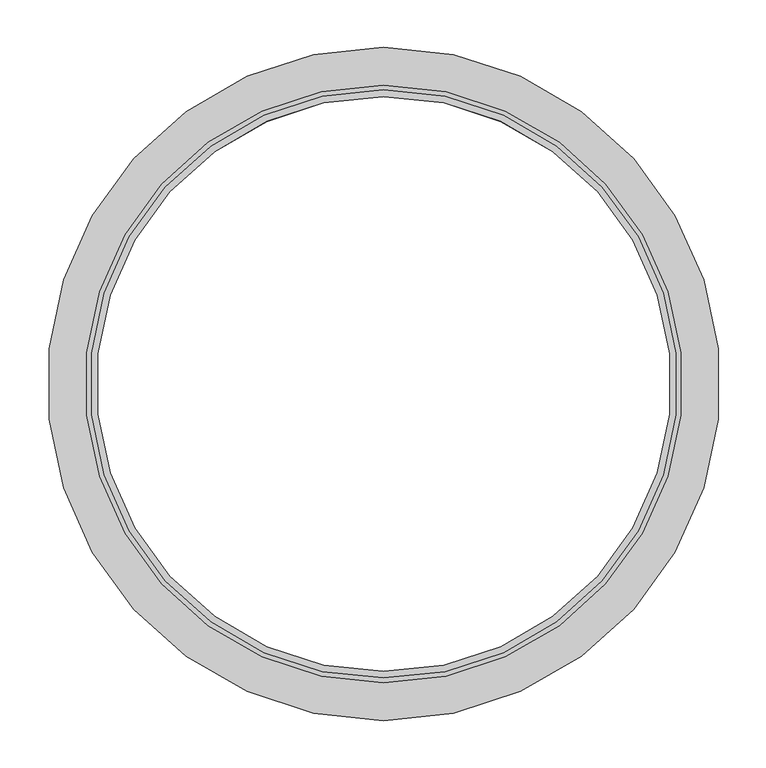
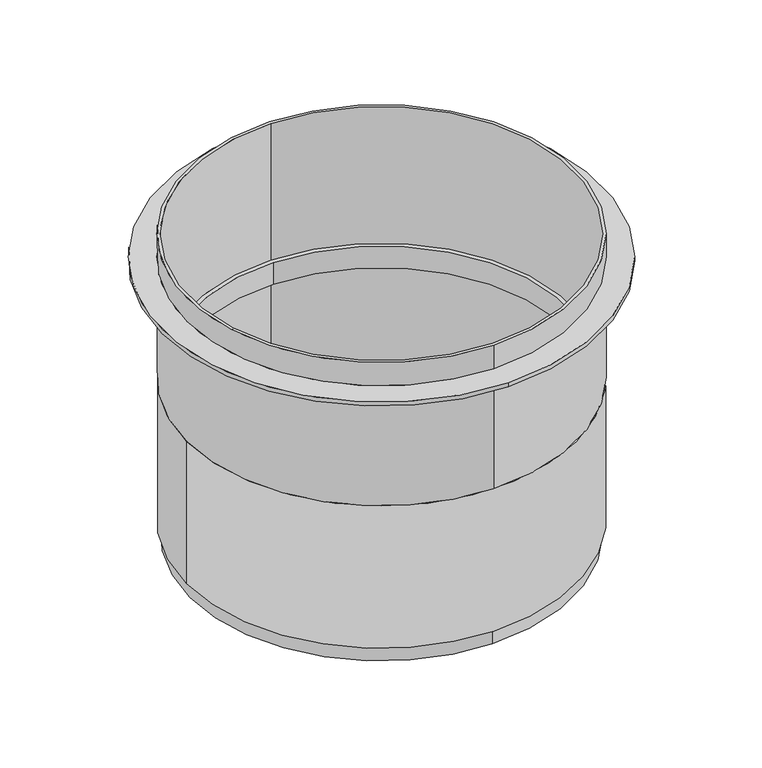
"""IFC4 building model written with IfcOpenShell, lengths in millimetres: valve geometry, Pipelife - Studnia PRO - Teleskop PP 630 : Teleskop PP 630 z kołnierzem dł. 515 mm."""

from ifc_helpers import new_model, si_unit, frame, origin, place, context, project, spatial, polyline, circle_curve, source, transform, mapped, element, save
from ifc_brep_helpers import plane_surface, cylinder_surface, revolved_surface, advanced_brep


def valve_ff07b4d1(model_context):
    return source(origin(), model_context, "Body", "AdvancedBrep", [
        advanced_brep(
        [(0.0, 310.5, 0.0), (0.0, -310.5, 0.0), (0.0, 303.5, 0.0), (0.0, -303.5, 0.0), (0.0, -310.5, 25.0), (0.0, 310.5, 25.0), (0.0, -303.5, 31.0), (0.0, 303.5, 31.0), (315.5, 0.0, 25.0), (-315.5, 0.0, 25.0), (315.5, 0.0, 269.0), (-315.5, 0.0, 269.0), (0.0, -310.5, 269.0), (0.0, 310.5, 269.0), (0.0, 310.5, 31.0), (0.0, -310.5, 31.0)],
        [
            (0, 1, circle_curve(frame((0.0, 0.0, 0.0), z_axis=(0.0, 0.0, -1.0), x_axis=(0.0, -1.0, 0.0)), 310.5)),
            (1, 0, circle_curve(frame((0.0, 0.0, 0.0), z_axis=(0.0, 0.0, -1.0), x_axis=(0.0, -1.0, 0.0)), 310.5)),
            (2, 3, circle_curve(frame((0.0, 0.0, 0.0), z_axis=(0.0, 0.0, 1.0), x_axis=(0.0, -1.0, 0.0)), 303.5)),
            (3, 2, circle_curve(frame((0.0, 0.0, 0.0), z_axis=(0.0, 0.0, 1.0), x_axis=(0.0, -1.0, 0.0)), 303.5)),
            (1, 4),
            (4, 5, circle_curve(frame((0.0, 0.0, 25.0), z_axis=(0.0, 0.0, -1.0), x_axis=(0.0, -1.0, 0.0)), 310.5)),
            (5, 0),
            (5, 4, circle_curve(frame((0.0, 0.0, 25.0), z_axis=(0.0, 0.0, -1.0), x_axis=(0.0, -1.0, 0.0)), 310.5)),
            (6, 3),
            (2, 7),
            (7, 6, circle_curve(frame((0.0, 0.0, 31.0), z_axis=(0.0, 0.0, 1.0), x_axis=(0.0, -1.0, 0.0)), 303.5)),
            (6, 7, circle_curve(frame((0.0, 0.0, 31.0), z_axis=(0.0, 0.0, 1.0), x_axis=(0.0, -1.0, 0.0)), 303.5)),
            (8, 9, circle_curve(frame((0.0, 0.0, 25.0), z_axis=(0.0, 0.0, -1.0), x_axis=(-1.0, 0.0, 0.0)), 315.5)),
            (9, 8, circle_curve(frame((0.0, 0.0, 25.0), z_axis=(0.0, 0.0, -1.0), x_axis=(-1.0, 0.0, 0.0)), 315.5)),
            (10, 11, circle_curve(frame((0.0, 0.0, 269.0), z_axis=(0.0, 0.0, 1.0), x_axis=(-1.0, 0.0, 0.0)), 315.5)),
            (11, 10, circle_curve(frame((0.0, 0.0, 269.0), z_axis=(0.0, 0.0, 1.0), x_axis=(-1.0, 0.0, 0.0)), 315.5)),
            (12, 13, circle_curve(frame((0.0, 0.0, 269.0), z_axis=(0.0, 0.0, -1.0), x_axis=(0.0, -1.0, 0.0)), 310.5)),
            (13, 12, circle_curve(frame((0.0, 0.0, 269.0), z_axis=(0.0, 0.0, -1.0), x_axis=(0.0, -1.0, 0.0)), 310.5)),
            (8, 10),
            (11, 9),
            (14, 15, circle_curve(frame((0.0, 0.0, 31.0), z_axis=(0.0, 0.0, 1.0), x_axis=(0.0, -1.0, 0.0)), 310.5)),
            (15, 14, circle_curve(frame((0.0, 0.0, 31.0), z_axis=(0.0, 0.0, 1.0), x_axis=(0.0, -1.0, 0.0)), 310.5)),
            (14, 13),
            (12, 15),
        ],
        [
            plane_surface(frame((0.0, 0.0, 0.0), z_axis=(0.0, 0.0, -1.0), x_axis=(0.0, -1.0, 0.0))),
            cylinder_surface(frame((0.0, 0.0, 25.0), z_axis=(0.0, 0.0, 1.0), x_axis=(0.0, -1.0, 0.0)), 310.5),
            revolved_surface(polyline([(0.0, -303.5, 31.0), (0.0, -303.5, 0.0)]), (0.0, 0.0, 31.0), (0.0, 0.0, 1.0)),
            plane_surface(frame((0.0, 0.0, 25.0), z_axis=(0.0, 0.0, -1.0), x_axis=(0.0, -1.0, 0.0))),
            plane_surface(frame((0.0, 0.0, 269.0), z_axis=(0.0, 0.0, 1.0), x_axis=(0.0, -1.0, 0.0))),
            cylinder_surface(frame((0.0, 0.0, 25.0), z_axis=(0.0, 0.0, -1.0), x_axis=(-1.0, 0.0, 0.0)), 315.5),
            plane_surface(frame((0.0, 0.0, 31.0), z_axis=(0.0, 0.0, 1.0), x_axis=(0.0, -1.0, 0.0))),
            revolved_surface(polyline([(0.0, -310.5, 269.0), (0.0, -310.5, 31.0)]), (0.0, 0.0, 269.0), (0.0, 0.0, 1.0)),
        ],
        [
            (0, [[1, 2], [3, 4]]),
            (1, [[-2, 5, 6, 7]]),
            (1, [[-1, -7, 8, -5]]),
            (2, [[9, -3, 10, 11]]),
            (2, [[-9, 12, -10, -4]]),
            (3, [[13, 14], [-6, -8]]),
            (4, [[15, 16], [17, 18]]),
            (5, [[-13, 19, -16, 20]]),
            (5, [[-14, -20, -15, -19]]),
            (6, [[21, 22], [-11, -12]]),
            (7, [[-21, 23, -17, 24]]),
            (7, [[-22, -24, -18, -23]]),
        ],
    ),
        advanced_brep(
        [(0.0, 315.5, 515.0), (0.0, -315.5, 515.0), (0.0, -310.5, 515.0), (0.0, 310.5, 515.0), (0.0, 315.5, 269.0), (0.0, -315.5, 269.0), (0.0, 310.5, 269.0), (0.0, -310.5, 269.0), (0.0, 315.5, 475.0), (0.0, -315.5, 475.0), (0.0, -315.5, 468.0), (0.0, 315.5, 468.0), (0.0, 310.5, 281.0), (0.0, -310.5, 281.0), (0.0, -303.5, 281.0), (0.0, 303.5, 281.0), (0.0, 310.5, 468.0), (0.0, 310.5, 475.0), (0.0, -310.5, 475.0), (0.0, -310.5, 468.0), (0.0, -303.5, 244.0), (0.0, 303.5, 244.0), (0.0, 310.5, 244.0), (0.0, -310.5, 244.0), (0.0, 355.5, 475.0), (0.0, -355.5, 475.0), (0.0, 355.5, 468.0), (0.0, -355.5, 468.0)],
        [
            (0, 1, circle_curve(frame((0.0, 0.0, 515.0), z_axis=(0.0, 0.0, 1.0), x_axis=(0.0, -1.0, 0.0)), 315.5)),
            (1, 0, circle_curve(frame((0.0, 0.0, 515.0), z_axis=(0.0, 0.0, 1.0), x_axis=(0.0, -1.0, 0.0)), 315.5)),
            (2, 3, circle_curve(frame((0.0, 0.0, 515.0), z_axis=(0.0, 0.0, -1.0), x_axis=(0.0, -1.0, 0.0)), 310.5)),
            (3, 2, circle_curve(frame((0.0, 0.0, 515.0), z_axis=(0.0, 0.0, -1.0), x_axis=(0.0, -1.0, 0.0)), 310.5)),
            (4, 5, circle_curve(frame((0.0, 0.0, 269.0), z_axis=(0.0, 0.0, -1.0), x_axis=(0.0, -1.0, 0.0)), 315.5)),
            (5, 4, circle_curve(frame((0.0, 0.0, 269.0), z_axis=(0.0, 0.0, -1.0), x_axis=(0.0, -1.0, 0.0)), 315.5)),
            (6, 7, circle_curve(frame((0.0, 0.0, 269.0), z_axis=(0.0, 0.0, 1.0), x_axis=(0.0, -1.0, 0.0)), 310.5)),
            (7, 6, circle_curve(frame((0.0, 0.0, 269.0), z_axis=(0.0, 0.0, 1.0), x_axis=(0.0, -1.0, 0.0)), 310.5)),
            (0, 8),
            (8, 9, circle_curve(frame((0.0, 0.0, 475.0), z_axis=(0.0, 0.0, 1.0), x_axis=(0.0, -1.0, 0.0)), 315.5)),
            (9, 1),
            (5, 10),
            (10, 11, circle_curve(frame((0.0, 0.0, 468.0), z_axis=(0.0, 0.0, -1.0), x_axis=(0.0, -1.0, 0.0)), 315.5)),
            (11, 4),
            (9, 8, circle_curve(frame((0.0, 0.0, 475.0), z_axis=(0.0, 0.0, 1.0), x_axis=(0.0, -1.0, 0.0)), 315.5)),
            (11, 10, circle_curve(frame((0.0, 0.0, 468.0), z_axis=(0.0, 0.0, -1.0), x_axis=(0.0, -1.0, 0.0)), 315.5)),
            (12, 13, circle_curve(frame((0.0, 0.0, 281.0), z_axis=(0.0, 0.0, 1.0), x_axis=(0.0, -1.0, 0.0)), 310.5)),
            (13, 12, circle_curve(frame((0.0, 0.0, 281.0), z_axis=(0.0, 0.0, 1.0), x_axis=(0.0, -1.0, 0.0)), 310.5)),
            (14, 15, circle_curve(frame((0.0, 0.0, 281.0), z_axis=(0.0, 0.0, -1.0), x_axis=(0.0, -1.0, 0.0)), 303.5)),
            (15, 14, circle_curve(frame((0.0, 0.0, 281.0), z_axis=(0.0, 0.0, -1.0), x_axis=(0.0, -1.0, 0.0)), 303.5)),
            (12, 16),
            (16, 17),
            (17, 3),
            (2, 18),
            (18, 19),
            (19, 13),
            (14, 20),
            (20, 21, circle_curve(frame((0.0, 0.0, 244.0), z_axis=(0.0, 0.0, -1.0), x_axis=(0.0, -1.0, 0.0)), 303.5)),
            (21, 15),
            (21, 20, circle_curve(frame((0.0, 0.0, 244.0), z_axis=(0.0, 0.0, -1.0), x_axis=(0.0, -1.0, 0.0)), 303.5)),
            (22, 23, circle_curve(frame((0.0, 0.0, 244.0), z_axis=(0.0, 0.0, -1.0), x_axis=(0.0, -1.0, 0.0)), 310.5)),
            (23, 22, circle_curve(frame((0.0, 0.0, 244.0), z_axis=(0.0, 0.0, -1.0), x_axis=(0.0, -1.0, 0.0)), 310.5)),
            (23, 7),
            (6, 22),
            (24, 25, circle_curve(frame((0.0, 0.0, 475.0), z_axis=(0.0, 0.0, 1.0), x_axis=(0.0, -1.0, 0.0)), 355.5)),
            (25, 24, circle_curve(frame((0.0, 0.0, 475.0), z_axis=(0.0, 0.0, 1.0), x_axis=(0.0, -1.0, 0.0)), 355.5)),
            (26, 27, circle_curve(frame((0.0, 0.0, 468.0), z_axis=(0.0, 0.0, -1.0), x_axis=(0.0, -1.0, 0.0)), 355.5)),
            (27, 26, circle_curve(frame((0.0, 0.0, 468.0), z_axis=(0.0, 0.0, -1.0), x_axis=(0.0, -1.0, 0.0)), 355.5)),
            (24, 26),
            (27, 25),
        ],
        [
            plane_surface(frame((0.0, 0.0, 515.0), z_axis=(0.0, 0.0, 1.0), x_axis=(0.0, -1.0, 0.0))),
            plane_surface(frame((0.0, 0.0, 269.0), z_axis=(0.0, 0.0, -1.0), x_axis=(0.0, -1.0, 0.0))),
            cylinder_surface(frame((0.0, 0.0, 515.0), z_axis=(0.0, 0.0, 1.0), x_axis=(0.0, -1.0, 0.0)), 315.5),
            plane_surface(frame((0.0, 0.0, 281.0), z_axis=(0.0, 0.0, 1.0), x_axis=(0.0, -1.0, 0.0))),
            revolved_surface(polyline([(0.0, -310.5, 515.0), (0.0, -310.5, 281.0)]), (0.0, 0.0, 515.0), (0.0, 0.0, 1.0)),
            revolved_surface(polyline([(0.0, -303.5, 281.0), (0.0, -303.5, 244.0)]), (0.0, 0.0, 281.0), (0.0, 0.0, 1.0)),
            plane_surface(frame((0.0, 0.0, 244.0), z_axis=(0.0, 0.0, -1.0), x_axis=(0.0, -1.0, 0.0))),
            cylinder_surface(frame((0.0, 0.0, 269.0), z_axis=(0.0, 0.0, 1.0), x_axis=(0.0, -1.0, 0.0)), 310.5),
            plane_surface(frame((0.0, 0.0, 475.0), z_axis=(0.0, 0.0, 1.0), x_axis=(0.0, -1.0, 0.0))),
            plane_surface(frame((0.0, 0.0, 468.0), z_axis=(0.0, 0.0, -1.0), x_axis=(0.0, -1.0, 0.0))),
            cylinder_surface(frame((0.0, 0.0, 475.0), z_axis=(0.0, 0.0, 1.0), x_axis=(0.0, -1.0, 0.0)), 355.5),
        ],
        [
            (0, [[1, 2], [3, 4]]),
            (1, [[5, 6], [7, 8]]),
            (2, [[-1, 9, 10, 11]]),
            (2, [[-6, 12, 13, 14]]),
            (2, [[-2, -11, 15, -9]]),
            (2, [[-5, -14, 16, -12]]),
            (3, [[17, 18], [19, 20]]),
            (4, [[-17, 21, 22, 23, -3, 24, 25, 26]]),
            (4, [[-18, -26, -25, -24, -4, -23, -22, -21]]),
            (5, [[27, 28, 29, -19]]),
            (5, [[-27, -20, -29, 30]]),
            (6, [[31, 32], [-28, -30]]),
            (7, [[-32, 33, -7, 34]]),
            (7, [[-31, -34, -8, -33]]),
            (8, [[35, 36], [-10, -15]]),
            (9, [[37, 38], [-13, -16]]),
            (10, [[-35, 39, -38, 40]]),
            (10, [[-36, -40, -37, -39]]),
        ],
    ),
    ])


if __name__ == "__main__":
    model = new_model("IFC4")
    model_context = context("Model", 3, world=origin())
    ifc_project = project(units=[si_unit("LENGTHUNIT", "METRE", prefix="MILLI")], contexts=[model_context])
    site = spatial("IfcSite", under=ifc_project)
    building = spatial("IfcBuilding", under=site)
    placement = place(None, origin())
    valve_shape = valve_ff07b4d1(model_context)
    element("IfcValve", 1, ObjectType="Pipelife - Studnia PRO - Teleskop PP 630 : Teleskop PP 630 z kołnierzem dł. 515 mm", at=placement, inside=building, context=model_context, shape_type="MappedRepresentation", body=[
        mapped(valve_shape, transform((0.0, 0.0, 0.0), x_axis=(1.0, 0.0, 0.0), y_axis=(0.0, 1.0, 0.0), z_axis=(0.0, 0.0, 1.0))),
    ])
    save(model, "model.ifc")
